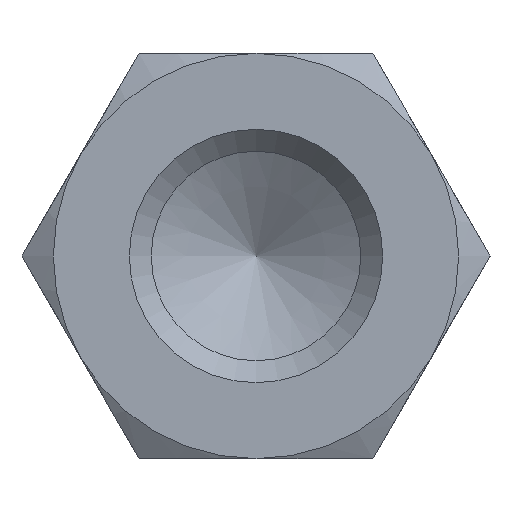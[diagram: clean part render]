
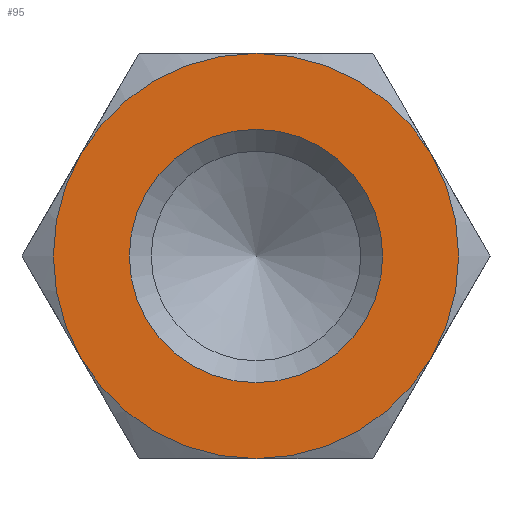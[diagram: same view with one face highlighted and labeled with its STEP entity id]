
A CAD part, left-side view. The second image highlights one B-rep face of the part: STEP entity #95.
In plain terms, the highlighted planar face has unit normal (-1, 0, 0).
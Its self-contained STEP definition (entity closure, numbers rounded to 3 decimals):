
#95 = ADVANCED_FACE( '', ( #147, #148 ), #149, .F. );
#147 = FACE_OUTER_BOUND( '', #206, .T. );
#148 = FACE_BOUND( '', #207, .T. );
#149 = PLANE( '', #208 );
#206 = EDGE_LOOP( '', ( #356, #357, #358, #359, #360, #361 ) );
#207 = EDGE_LOOP( '', ( #362 ) );
#208 = AXIS2_PLACEMENT_3D( '', #363, #364, #365 );
#356 = ORIENTED_EDGE( '', *, *, #440, .F. );
#357 = ORIENTED_EDGE( '', *, *, #425, .F. );
#358 = ORIENTED_EDGE( '', *, *, #441, .F. );
#359 = ORIENTED_EDGE( '', *, *, #437, .F. );
#360 = ORIENTED_EDGE( '', *, *, #442, .F. );
#361 = ORIENTED_EDGE( '', *, *, #443, .F. );
#362 = ORIENTED_EDGE( '', *, *, #439, .T. );
#363 = CARTESIAN_POINT( '', ( -20., 0., 0. ) );
#364 = DIRECTION( '', ( 1., 0., 0. ) );
#365 = DIRECTION( '', ( 0., 0., -1. ) );
#425 = EDGE_CURVE( '', #495, #493, #497, .T. );
#437 = EDGE_CURVE( '', #447, #506, #513, .T. );
#439 = EDGE_CURVE( '', #516, #516, #517, .T. );
#440 = EDGE_CURVE( '', #493, #486, #518, .T. );
#441 = EDGE_CURVE( '', #506, #495, #519, .T. );
#442 = EDGE_CURVE( '', #481, #447, #520, .T. );
#443 = EDGE_CURVE( '', #486, #481, #521, .T. );
#447 = VERTEX_POINT( '', #525 );
#481 = VERTEX_POINT( '', #595 );
#486 = VERTEX_POINT( '', #611 );
#493 = VERTEX_POINT( '', #632 );
#495 = VERTEX_POINT( '', #637 );
#497 = CIRCLE( '', #644, 4. );
#506 = VERTEX_POINT( '', #670 );
#513 = CIRCLE( '', #701, 4. );
#516 = VERTEX_POINT( '', #704 );
#517 = CIRCLE( '', #705, 2.5 );
#518 = CIRCLE( '', #706, 4. );
#519 = CIRCLE( '', #707, 4. );
#520 = CIRCLE( '', #708, 4. );
#521 = CIRCLE( '', #709, 4. );
#525 = CARTESIAN_POINT( '', ( -20., -3.464, 2. ) );
#595 = CARTESIAN_POINT( '', ( -20., 0., 4. ) );
#611 = CARTESIAN_POINT( '', ( -20., 3.464, 2. ) );
#632 = CARTESIAN_POINT( '', ( -20., 3.464, -2. ) );
#637 = CARTESIAN_POINT( '', ( -20., 0., -4. ) );
#644 = AXIS2_PLACEMENT_3D( '', #744, #745, #746 );
#670 = CARTESIAN_POINT( '', ( -20., -3.464, -2. ) );
#701 = AXIS2_PLACEMENT_3D( '', #749, #750, #751 );
#704 = CARTESIAN_POINT( '', ( -20., 2.5, 0. ) );
#705 = AXIS2_PLACEMENT_3D( '', #755, #756, #757 );
#706 = AXIS2_PLACEMENT_3D( '', #758, #759, #760 );
#707 = AXIS2_PLACEMENT_3D( '', #761, #762, #763 );
#708 = AXIS2_PLACEMENT_3D( '', #764, #765, #766 );
#709 = AXIS2_PLACEMENT_3D( '', #767, #768, #769 );
#744 = CARTESIAN_POINT( '', ( -20., 0., 0. ) );
#745 = DIRECTION( '', ( 1., 0., 0. ) );
#746 = DIRECTION( '', ( 0., 0., -1. ) );
#749 = CARTESIAN_POINT( '', ( -20., 0., 0. ) );
#750 = DIRECTION( '', ( 1., 0., 0. ) );
#751 = DIRECTION( '', ( 0., 0., -1. ) );
#755 = CARTESIAN_POINT( '', ( -20., 0., 0. ) );
#756 = DIRECTION( '', ( 1., 0., 0. ) );
#757 = DIRECTION( '', ( 0., 1., 0. ) );
#758 = CARTESIAN_POINT( '', ( -20., 0., 0. ) );
#759 = DIRECTION( '', ( 1., 0., 0. ) );
#760 = DIRECTION( '', ( 0., 0., -1. ) );
#761 = CARTESIAN_POINT( '', ( -20., 0., 0. ) );
#762 = DIRECTION( '', ( 1., 0., 0. ) );
#763 = DIRECTION( '', ( 0., 0., -1. ) );
#764 = CARTESIAN_POINT( '', ( -20., 0., 0. ) );
#765 = DIRECTION( '', ( 1., 0., 0. ) );
#766 = DIRECTION( '', ( 0., 0., -1. ) );
#767 = CARTESIAN_POINT( '', ( -20., 0., 0. ) );
#768 = DIRECTION( '', ( 1., 0., 0. ) );
#769 = DIRECTION( '', ( 0., 0., -1. ) );
